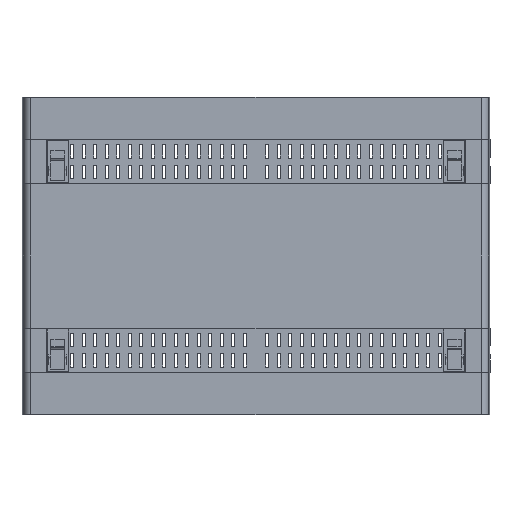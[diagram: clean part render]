
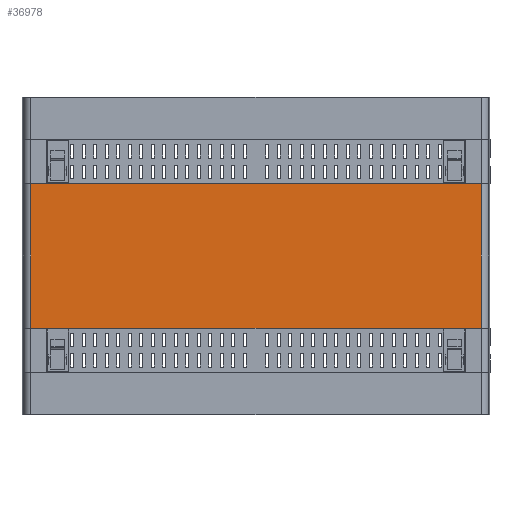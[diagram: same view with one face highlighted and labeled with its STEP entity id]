
A CAD part, front view. The second image highlights one B-rep face of the part: STEP entity #36978.
In plain terms, the highlighted planar face has unit normal (0, -1, 0).
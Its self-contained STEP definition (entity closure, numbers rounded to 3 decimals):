
#1370 = DIRECTION ( 'NONE',  ( 1., 0., 0. ) ) ;
#2850 = EDGE_CURVE ( 'NONE', #81924, #99017, #44177, .T. ) ;
#4158 = CARTESIAN_POINT ( 'NONE',  ( -177.285, 0., 56.794 ) ) ;
#4697 = CARTESIAN_POINT ( 'NONE',  ( 177.285, 0., 125.095 ) ) ;
#7790 = VECTOR ( 'NONE', #52303, 1000. ) ;
#8482 = ORIENTED_EDGE ( 'NONE', *, *, #2850, .T. ) ;
#8630 = VECTOR ( 'NONE', #84159, 1000. ) ;
#10872 = CARTESIAN_POINT ( 'NONE',  ( 177.285, 0., 56.794 ) ) ;
#15737 = ORIENTED_EDGE ( 'NONE', *, *, #63952, .F. ) ;
#18014 = ORIENTED_EDGE ( 'NONE', *, *, #28765, .F. ) ;
#23792 = LINE ( 'NONE', #89181, #101170 ) ;
#24080 = CARTESIAN_POINT ( 'NONE',  ( -237.769, 0., -56.794 ) ) ;
#28329 = CARTESIAN_POINT ( 'NONE',  ( 177.285, 0., 125.095 ) ) ;
#28765 = EDGE_CURVE ( 'NONE', #62052, #99017, #35126, .T. ) ;
#32151 = DIRECTION ( 'NONE',  ( 1., 0., 0. ) ) ;
#35126 = LINE ( 'NONE', #28329, #8630 ) ;
#36978 = ADVANCED_FACE ( 'NONE', ( #56106 ), #76758, .F. ) ;
#37124 = DIRECTION ( 'NONE',  ( 0., 0., 1. ) ) ;
#44177 = LINE ( 'NONE', #24080, #65330 ) ;
#44840 = CARTESIAN_POINT ( 'NONE',  ( -177.285, 0., -56.794 ) ) ;
#52303 = DIRECTION ( 'NONE',  ( 0., 0., -1. ) ) ;
#56106 = FACE_OUTER_BOUND ( 'NONE', #92411, .T. ) ;
#59285 = VERTEX_POINT ( 'NONE', #4158 ) ;
#62052 = VERTEX_POINT ( 'NONE', #10872 ) ;
#63952 = EDGE_CURVE ( 'NONE', #59285, #62052, #23792, .T. ) ;
#63997 = AXIS2_PLACEMENT_3D ( 'NONE', #4697, #84818, #37124 ) ;
#65330 = VECTOR ( 'NONE', #32151, 1000. ) ;
#69164 = LINE ( 'NONE', #76275, #7790 ) ;
#74152 = EDGE_CURVE ( 'NONE', #59285, #81924, #69164, .T. ) ;
#76275 = CARTESIAN_POINT ( 'NONE',  ( -177.285, 0., 125.095 ) ) ;
#76758 = PLANE ( 'NONE',  #63997 ) ;
#81924 = VERTEX_POINT ( 'NONE', #44840 ) ;
#84159 = DIRECTION ( 'NONE',  ( 0., 0., -1. ) ) ;
#84818 = DIRECTION ( 'NONE',  ( 0., 1., 0. ) ) ;
#86518 = ORIENTED_EDGE ( 'NONE', *, *, #74152, .T. ) ;
#89181 = CARTESIAN_POINT ( 'NONE',  ( -237.769, 0., 56.794 ) ) ;
#92411 = EDGE_LOOP ( 'NONE', ( #86518, #8482, #18014, #15737 ) ) ;
#98400 = CARTESIAN_POINT ( 'NONE',  ( 177.285, 0., -56.794 ) ) ;
#99017 = VERTEX_POINT ( 'NONE', #98400 ) ;
#101170 = VECTOR ( 'NONE', #1370, 1000. ) ;
